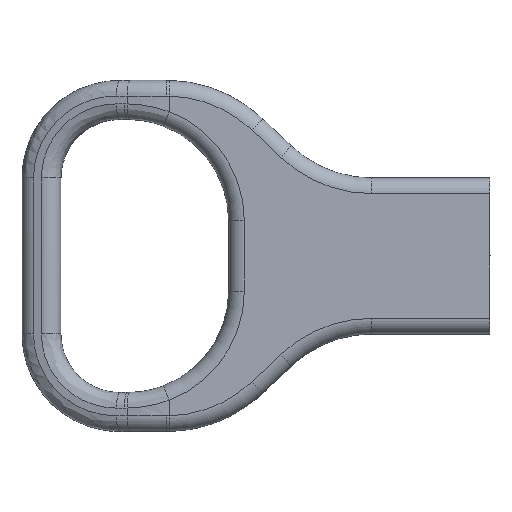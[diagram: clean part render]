
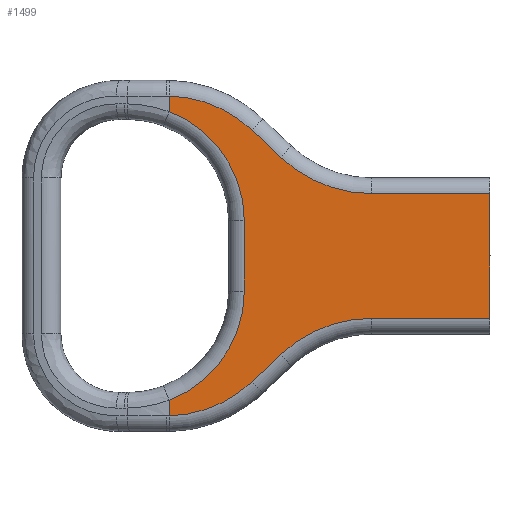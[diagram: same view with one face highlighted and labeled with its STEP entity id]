
A CAD part, top view. The second image highlights one B-rep face of the part: STEP entity #1499.
In plain terms, the highlighted planar face has unit normal (0, 0, 1).
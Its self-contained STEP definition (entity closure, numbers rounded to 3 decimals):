
#43=VECTOR('Line Direction',#42,1.) ;
#147=VECTOR('Line Direction',#146,1.) ;
#164=VECTOR('Line Direction',#163,1.) ;
#240=VECTOR('Line Direction',#239,1.) ;
#883=VECTOR('Line Direction',#882,1.) ;
#1336=VECTOR('Line Direction',#1335,1.) ;
#1349=VECTOR('Line Direction',#1348,1.) ;
#1473=VECTOR('Line Direction',#1472,1.) ;
#42=DIRECTION('Vector Direction',(0.,1.,0.)) ;
#146=DIRECTION('Vector Direction',(-1.,0.,0.)) ;
#163=DIRECTION('Vector Direction',(-1.,0.,0.)) ;
#208=DIRECTION('Axis2P3D Direction',(0.,0.,1.)) ;
#239=DIRECTION('Vector Direction',(-0.726,-0.687,0.)) ;
#270=DIRECTION('Axis2P3D Direction',(0.,0.,1.)) ;
#851=DIRECTION('Axis2P3D Direction',(0.,0.,1.)) ;
#882=DIRECTION('Vector Direction',(0.726,-0.687,0.)) ;
#904=DIRECTION('Axis2P3D Direction',(0.,0.,1.)) ;
#1335=DIRECTION('Vector Direction',(0.,-1.,0.)) ;
#1348=DIRECTION('Vector Direction',(0.,-1.,0.)) ;
#1460=DIRECTION('Axis2P3D Direction',(0.,-0.,1.)) ;
#1461=DIRECTION('Axis2P3D XDirection',(1.,0.,0.)) ;
#1465=DIRECTION('Axis2P3D Direction',(0.,-0.,1.)) ;
#1472=DIRECTION('Vector Direction',(0.,1.,0.)) ;
#1479=DIRECTION('Axis2P3D Direction',(0.,-0.,1.)) ;
#41=CARTESIAN_POINT('Line Origine',(846.5,-470.,120.)) ;
#45=CARTESIAN_POINT('Vertex',(846.5,-478.,120.)) ;
#47=CARTESIAN_POINT('Vertex',(846.5,-462.,120.)) ;
#142=CARTESIAN_POINT('Vertex',(831.347,-462.,120.)) ;
#145=CARTESIAN_POINT('Line Origine',(825.932,-462.,120.)) ;
#162=CARTESIAN_POINT('Line Origine',(825.932,-478.,120.)) ;
#166=CARTESIAN_POINT('Vertex',(831.347,-478.,120.)) ;
#197=CARTESIAN_POINT('Vertex',(819.66,-482.654,120.)) ;
#207=CARTESIAN_POINT('Axis2P3D Location',(831.347,-495.,120.)) ;
#228=CARTESIAN_POINT('Vertex',(816.,-486.119,120.)) ;
#238=CARTESIAN_POINT('Line Origine',(827.242,-475.476,120.)) ;
#259=CARTESIAN_POINT('Vertex',(805.363,-490.496,120.)) ;
#269=CARTESIAN_POINT('Axis2P3D Location',(805.,-474.5,120.)) ;
#803=CARTESIAN_POINT('Vertex',(805.363,-449.504,120.)) ;
#840=CARTESIAN_POINT('Vertex',(816.,-453.881,120.)) ;
#850=CARTESIAN_POINT('Axis2P3D Location',(805.,-465.5,120.)) ;
#871=CARTESIAN_POINT('Vertex',(819.66,-457.346,120.)) ;
#881=CARTESIAN_POINT('Line Origine',(827.242,-464.524,120.)) ;
#903=CARTESIAN_POINT('Axis2P3D Location',(831.347,-445.,120.)) ;
#1331=CARTESIAN_POINT('Vertex',(805.363,-451.492,120.)) ;
#1334=CARTESIAN_POINT('Line Origine',(805.363,-470.,120.)) ;
#1347=CARTESIAN_POINT('Line Origine',(805.363,-470.,120.)) ;
#1351=CARTESIAN_POINT('Vertex',(805.363,-488.508,120.)) ;
#1459=CARTESIAN_POINT('Axis2P3D Location',(0.,0.,120.)) ;
#1464=CARTESIAN_POINT('Axis2P3D Location',(800.,-465.5,120.)) ;
#1468=CARTESIAN_POINT('Vertex',(815.,-465.5,120.)) ;
#1471=CARTESIAN_POINT('Line Origine',(815.,-470.,120.)) ;
#1475=CARTESIAN_POINT('Vertex',(815.,-474.5,120.)) ;
#1478=CARTESIAN_POINT('Axis2P3D Location',(800.,-474.5,120.)) ;
#209=AXIS2_PLACEMENT_3D('Circle Axis2P3D',#207,#208,$) ;
#271=AXIS2_PLACEMENT_3D('Circle Axis2P3D',#269,#270,$) ;
#852=AXIS2_PLACEMENT_3D('Circle Axis2P3D',#850,#851,$) ;
#905=AXIS2_PLACEMENT_3D('Circle Axis2P3D',#903,#904,$) ;
#1462=AXIS2_PLACEMENT_3D('Plane Axis2P3D',#1459,#1460,#1461) ;
#1466=AXIS2_PLACEMENT_3D('Circle Axis2P3D',#1464,#1465,$) ;
#1480=AXIS2_PLACEMENT_3D('Circle Axis2P3D',#1478,#1479,$) ;
#49=EDGE_CURVE('',#46,#48,#44,.T.) ;
#149=EDGE_CURVE('',#48,#143,#148,.T.) ;
#168=EDGE_CURVE('',#167,#46,#165,.F.) ;
#211=EDGE_CURVE('',#198,#167,#210,.F.) ;
#242=EDGE_CURVE('',#229,#198,#241,.F.) ;
#273=EDGE_CURVE('',#260,#229,#272,.T.) ;
#854=EDGE_CURVE('',#841,#804,#853,.T.) ;
#885=EDGE_CURVE('',#872,#841,#884,.F.) ;
#907=EDGE_CURVE('',#143,#872,#906,.F.) ;
#1338=EDGE_CURVE('',#1332,#804,#1337,.F.) ;
#1353=EDGE_CURVE('',#260,#1352,#1350,.F.) ;
#1470=EDGE_CURVE('',#1469,#1332,#1467,.T.) ;
#1477=EDGE_CURVE('',#1476,#1469,#1474,.T.) ;
#1482=EDGE_CURVE('',#1352,#1476,#1481,.T.) ;
#1463=PLANE('Plane',#1462) ;
#1484=ORIENTED_EDGE('',*,*,#49,.T.) ;
#1485=ORIENTED_EDGE('',*,*,#149,.T.) ;
#1486=ORIENTED_EDGE('',*,*,#907,.T.) ;
#1487=ORIENTED_EDGE('',*,*,#885,.T.) ;
#1488=ORIENTED_EDGE('',*,*,#854,.T.) ;
#1489=ORIENTED_EDGE('',*,*,#1338,.F.) ;
#1490=ORIENTED_EDGE('',*,*,#1470,.F.) ;
#1491=ORIENTED_EDGE('',*,*,#1477,.F.) ;
#1492=ORIENTED_EDGE('',*,*,#1482,.F.) ;
#1493=ORIENTED_EDGE('',*,*,#1353,.F.) ;
#1494=ORIENTED_EDGE('',*,*,#273,.T.) ;
#1495=ORIENTED_EDGE('',*,*,#242,.T.) ;
#1496=ORIENTED_EDGE('',*,*,#211,.T.) ;
#1497=ORIENTED_EDGE('',*,*,#168,.T.) ;
#44=LINE('Line',#41,#43) ;
#148=LINE('Line',#145,#147) ;
#165=LINE('Line',#162,#164) ;
#241=LINE('Line',#238,#240) ;
#884=LINE('Line',#881,#883) ;
#1337=LINE('Line',#1334,#1336) ;
#1350=LINE('Line',#1347,#1349) ;
#1474=LINE('Line',#1471,#1473) ;
#1499=ADVANCED_FACE('\X2\51E04F554F53\X0\.9',(#1498),#1463,.T.) ;
#210=CIRCLE('generated circle',#209,17.) ;
#272=CIRCLE('generated circle',#271,16.) ;
#853=CIRCLE('generated circle',#852,16.) ;
#906=CIRCLE('generated circle',#905,17.) ;
#1467=CIRCLE('generated circle',#1466,15.) ;
#1481=CIRCLE('generated circle',#1480,15.) ;
#46=VERTEX_POINT('',#45) ;
#48=VERTEX_POINT('',#47) ;
#143=VERTEX_POINT('',#142) ;
#167=VERTEX_POINT('',#166) ;
#198=VERTEX_POINT('',#197) ;
#229=VERTEX_POINT('',#228) ;
#260=VERTEX_POINT('',#259) ;
#804=VERTEX_POINT('',#803) ;
#841=VERTEX_POINT('',#840) ;
#872=VERTEX_POINT('',#871) ;
#1332=VERTEX_POINT('',#1331) ;
#1352=VERTEX_POINT('',#1351) ;
#1469=VERTEX_POINT('',#1468) ;
#1476=VERTEX_POINT('',#1475) ;
#1483=EDGE_LOOP('',(#1484,#1485,#1486,#1487,#1488,#1489,#1490,#1491,#1492,#1493,#1494,#1495,#1496,#1497)) ;
#1498=FACE_OUTER_BOUND('',#1483,.T.) ;
